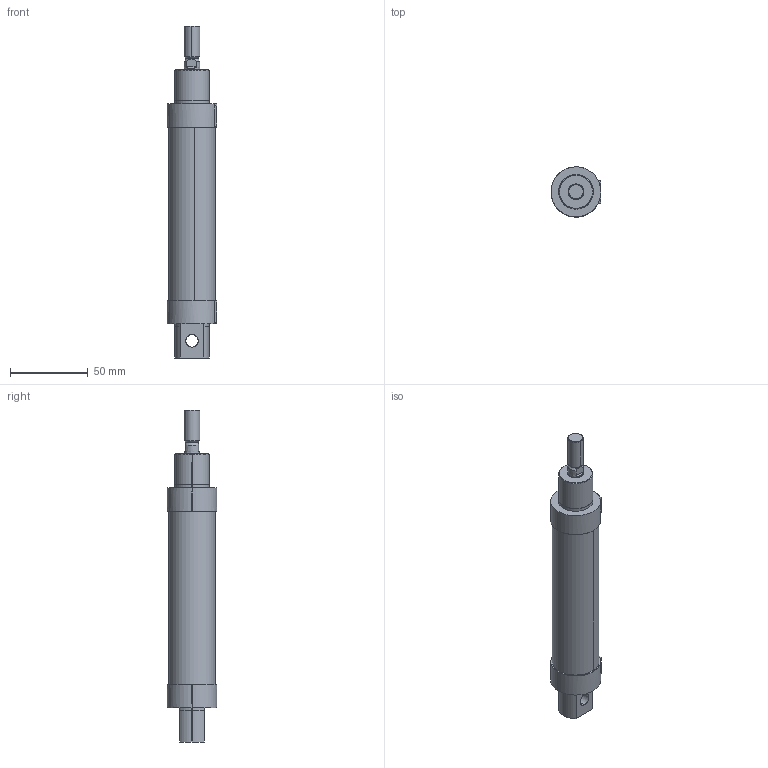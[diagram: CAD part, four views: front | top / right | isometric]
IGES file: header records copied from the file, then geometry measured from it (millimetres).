
Start section: SolidWorks IGES file using analytic representation for surfaces
Global section: file name: D:\ARICA 3D ÇÝZÝMLER\3D IGES\MAL-S\MAL6432S-25\MAL6432S-25X75-CYLINDER.IGS; native system: SolidWorks 2013; preprocessor: SolidWorks 2013; author: user; date: 150922.154442; units: millimetre
Bounding box: 32 x 32 x 213 mm (x, y, z)
Surface area: 42295.4 mm2 (no closed solid volume)
Topology: 0 solids, 0 shells, 132 faces, 2541 edges, 2541 vertices
Faces by surface type: revolution 85, bspline 47
